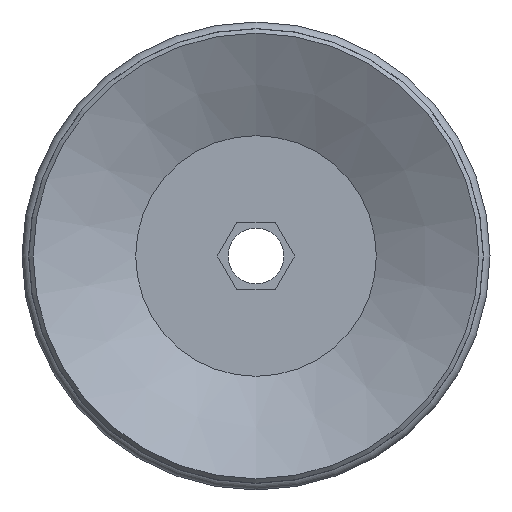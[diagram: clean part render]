
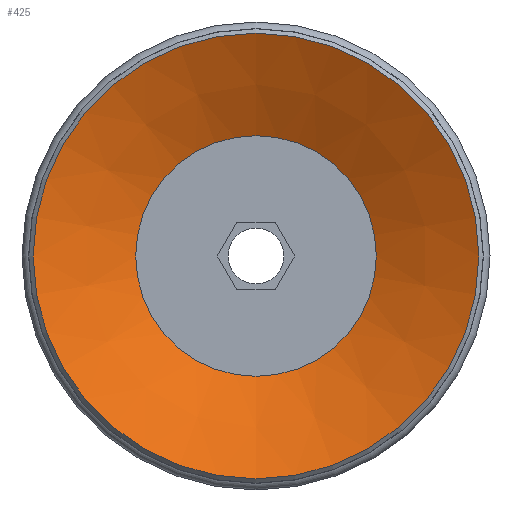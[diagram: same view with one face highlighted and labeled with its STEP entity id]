
A CAD part, front view. The second image highlights one B-rep face of the part: STEP entity #425.
In plain terms, the highlighted conical face has half-angle 63 degrees and reference radius 5.4 mm.
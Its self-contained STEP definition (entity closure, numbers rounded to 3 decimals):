
#425=ADVANCED_FACE('',(#648,#649),#650,.F.);
#648=FACE_BOUND('',#880,.T.);
#649=FACE_OUTER_BOUND('',#881,.T.);
#650=CONICAL_SURFACE('',#882,5.4,1.1);
#880=EDGE_LOOP('',(#1449));
#881=EDGE_LOOP('',(#1450));
#882=AXIS2_PLACEMENT_3D('',#1451,#1452,#1453);
#1449=ORIENTED_EDGE('',*,*,#1626,.F.);
#1450=ORIENTED_EDGE('',*,*,#1625,.T.);
#1451=CARTESIAN_POINT('',(0.0,5.518,0.0));
#1452=DIRECTION('',(-0.0,-1.0,0.));
#1453=DIRECTION('',(0.0,0.,-1.0));
#1625=EDGE_CURVE('',#1887,#1887,#1888,.T.);
#1626=EDGE_CURVE('',#1889,#1889,#1890,.T.);
#1887=VERTEX_POINT('',#2529);
#1888=CIRCLE('',#2530,10.0);
#1889=VERTEX_POINT('',#2531);
#1890=CIRCLE('',#2532,5.4);
#2529=CARTESIAN_POINT('',(0.0,3.175,-10.0));
#2530=AXIS2_PLACEMENT_3D('',#2770,#2771,#2772);
#2531=CARTESIAN_POINT('',(0.0,5.518,-5.4));
#2532=AXIS2_PLACEMENT_3D('',#2773,#2774,#2775);
#2770=CARTESIAN_POINT('',(0.0,3.175,0.0));
#2771=DIRECTION('',(0.0,-1.0,0.));
#2772=DIRECTION('',(0.0,0.,-1.0));
#2773=CARTESIAN_POINT('',(0.0,5.518,0.0));
#2774=DIRECTION('',(0.0,-1.0,0.));
#2775=DIRECTION('',(0.0,0.,-1.0));
